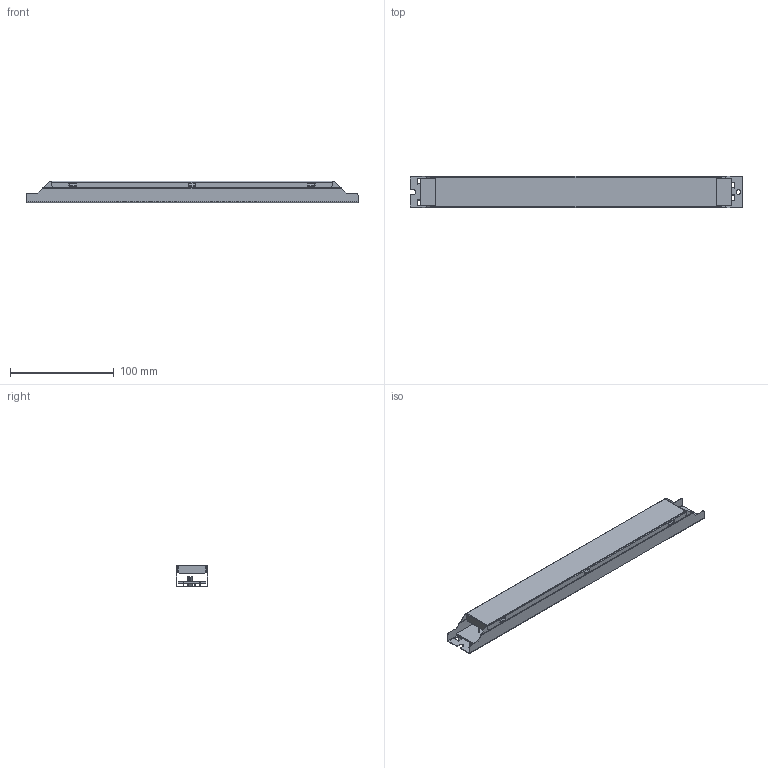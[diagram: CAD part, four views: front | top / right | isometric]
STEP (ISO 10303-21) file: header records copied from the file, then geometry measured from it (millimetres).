
FILE_DESCRIPTION(('Creo Elements/Direct Modeling STEP Export'),'2;1');
FILE_NAME('LDC-55.stp','2019-01-02T16:25:44',(''),(''),'PTC Creo Elements/Direct Modeling STEP processor for AP214 (Solid Model)','PTC Creo Elements/Direct Modeling 19.0 09-May-2014 (C) Parametric Technology GmbH','');
FILE_SCHEMA(('AUTOMOTIVE_DESIGN { 1 0 10303 214 1 1 1 1 }'));
Length unit declared in the file: millimetre
Products named in the file (4): 258A-T; 258A-D; pcb; LDC-55
Assembly tree (3 placements, depth 2):
  LDC-55
    pcb
    258A-D
    258A-T
Bounding box: 320 x 30.4 x 21 mm (x, y, z)
Volume: 27858.3 mm3; surface area: 83862.3 mm2
Topology: 3 solids, 3 shells, 318 faces, 920 edges, 608 vertices
Faces by surface type: plane 225, cylinder 93
Entity records: 10568 total; most frequent: CARTESIAN_POINT 1845, ORIENTED_EDGE 1840, DIRECTION 1742, EDGE_CURVE 920, VECTOR 732, LINE 732, VERTEX_POINT 608, AXIS2_PLACEMENT_3D 505
